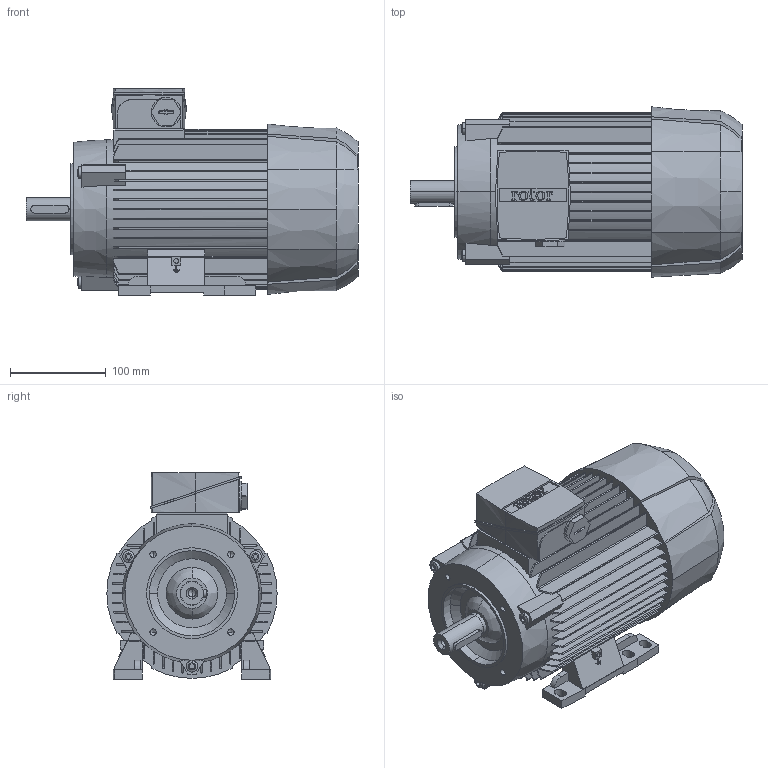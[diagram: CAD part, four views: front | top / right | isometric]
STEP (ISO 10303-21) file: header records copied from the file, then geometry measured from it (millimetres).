
FILE_DESCRIPTION (( 'STEP AP214' ), '1' );
FILE_NAME ('6RN90S04E10 IM2141-A.STEP', '2017-03-13T11:02:23', ( 'rotor' ), ( 'Hewlett-Packard Company' ), 'SwSTEP 2.0', 'SolidWorks 2015', '' );
FILE_SCHEMA (( 'AUTOMOTIVE_DESIGN' ));
Length unit declared in the file: millimetre
Products named in the file (1): 6RN90S04E10 IM2141-A
Bounding box: 347 x 178 x 216 mm (x, y, z)
Volume: 6088651.8 mm3; surface area: 417561.7 mm2
Topology: 1 solids, 1 shells, 683 faces, 1927 edges, 1271 vertices
Faces by surface type: plane 414, cylinder 137, bspline 101, cone 31
Entity records: 31514 total; most frequent: CARTESIAN_POINT 7806, ORIENTED_EDGE 3834, DIRECTION 3219, EDGE_CURVE 1917, VERTEX_POINT 1271, VECTOR 1183, LINE 1183, AXIS2_PLACEMENT_3D 1018
